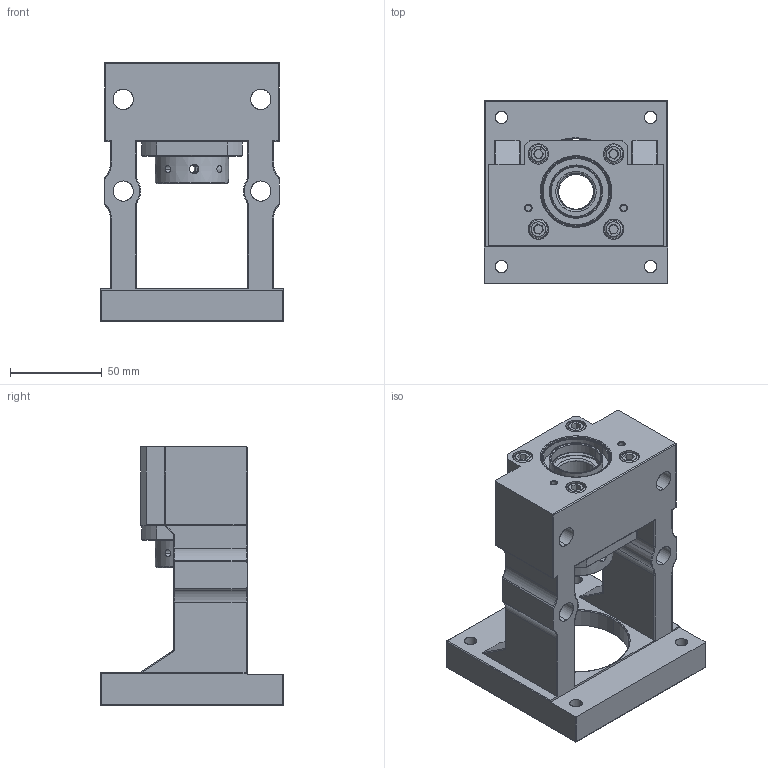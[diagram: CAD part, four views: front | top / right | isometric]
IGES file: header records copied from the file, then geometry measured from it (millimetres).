
Start section: SolidWorks IGES file using analytic representation for surfaces
Global section: file name: C:\Users\117\Desktop\1061208網站3D圖檔問題處理\傳動座\整合型\MBCS(F)\MBCS20\MBCS20-Y.IGS,15HSolidWorks; native system: 2017; preprocessor: SolidWorks 2017; author: 117; date: 171228.155217; units: millimetre
Bounding box: 100 x 100 x 141 mm (x, y, z)
Surface area: 86123.3 mm2 (no closed solid volume)
Topology: 0 solids, 0 shells, 354 faces, 5658 edges, 5636 vertices
Faces by surface type: revolution 211, bspline 143
